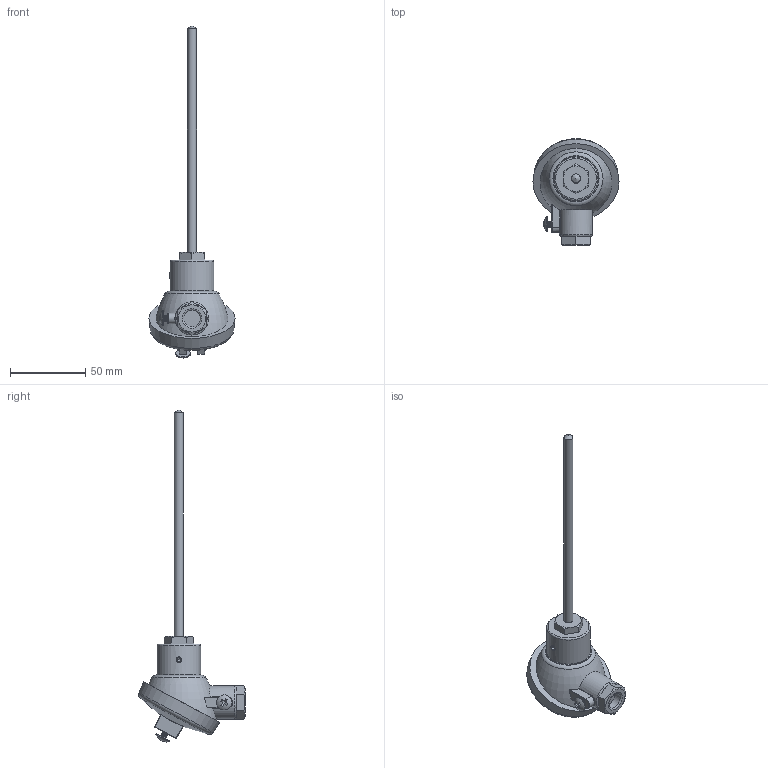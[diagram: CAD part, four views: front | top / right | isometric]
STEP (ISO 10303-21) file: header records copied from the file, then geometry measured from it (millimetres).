
FILE_DESCRIPTION (( 'STEP AP203' ), '1' );
FILE_NAME ('YIR30_5(0).STEP', '2024-12-12T01:41:34', ( '' ), ( '' ), 'SwSTEP 2.0', 'SolidWorks 2021', '' );
FILE_SCHEMA (( 'CONFIG_CONTROL_DESIGN' ));
Length unit declared in the file: millimetre
Products named in the file (1): YIR30_5(0)
Bounding box: 57 x 70.64 x 219.9 mm (x, y, z)
Volume: 82225.1 mm3; surface area: 16892.1 mm2
Topology: 1 solids, 2 shells, 186 faces, 445 edges, 275 vertices
Faces by surface type: plane 88, cylinder 47, bspline 19, cone 13, torus 11, sphere 8
Full cylindrical faces by diameter (mm): 3.5 x3, 3.6 x1, 3.8 x10, 6 x1, 10 x2, 11 x1, 16 x1, 16.5 x1, 22 x1, 29 x1
Entity records: 7863 total; most frequent: CARTESIAN_POINT 4280, ORIENTED_EDGE 714, DIRECTION 677, EDGE_CURVE 357, AXIS2_PLACEMENT_3D 263, VERTEX_POINT 230, EDGE_LOOP 217, FACE_OUTER_BOUND 195
